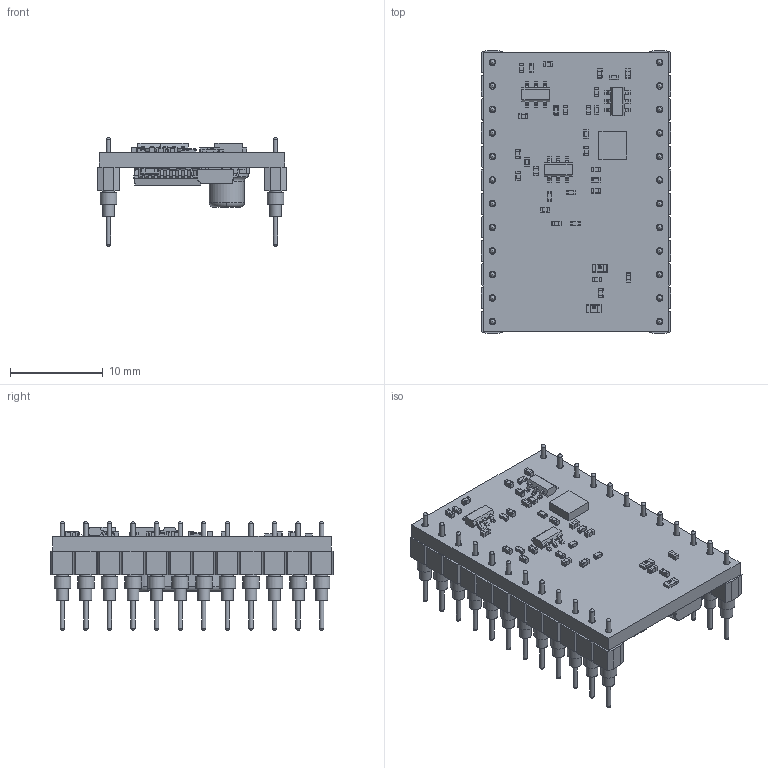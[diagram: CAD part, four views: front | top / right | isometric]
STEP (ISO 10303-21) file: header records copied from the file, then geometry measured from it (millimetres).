
FILE_DESCRIPTION(('Open CASCADE Model'),'2;1');
FILE_NAME('Open CASCADE Shape Model','2024-03-15T08:25:14',('Author'),( 'Open CASCADE'),'Open CASCADE STEP processor 6.8','Open CASCADE 6.8' ,'Unknown');
FILE_SCHEMA(('AUTOMOTIVE_DESIGN { 1 0 10303 214 1 1 1 1 }'));
Length unit declared in the file: millimetre
Products named in the file (78): PCB; Board; R17; User_Library-Chip_Resistor2; R15; R14; R13; R12; R11; R10; R9; R8; R7; R6; R3; J1; BHS-112-G-A; _BHS-112-G-A_socket; _BHS-112-G-A_pins; C32; cap_0402; C31; C30; C29; C28; C27; C26; C25; C24; C23; C22; C21; C20; C19; C18; C17; C16; C15; C14; C13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
Assembly tree (154 placements, depth 4):
  PCB
    Board
    R17
      User_Library-Chip_Resistor2
    R15
      User_Library-Chip_Resistor2
    R14
      User_Library-Chip_Resistor2
    R13
      User_Library-Chip_Resistor2
    R12
      User_Library-Chip_Resistor2
    R11
      User_Library-Chip_Resistor2
    R10
      User_Library-Chip_Resistor2
    R9
      User_Library-Chip_Resistor2
    R8
      User_Library-Chip_Resistor2
    R7
      User_Library-Chip_Resistor2
    R6
      User_Library-Chip_Resistor2
    R3
      User_Library-Chip_Resistor2
    J1
      BHS-112-G-A  x2
        _BHS-112-G-A_socket
        _BHS-112-G-A_pins
    C32
      cap_0402
    C31
      cap_0402
    C30
      cap_0402
    C29
      cap_0402
    C28
      cap_0402
    C27
      cap_0402
    C26
      cap_0402
    C25
      cap_0402
    C24
      cap_0402
    C23
      cap_0402
    C22
      cap_0402
    C21
      cap_0402
    C20
      cap_0402
    C19
      cap_0402
    C18
      cap_0402
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Bounding box: 20.44 x 30.48 x 11.68 mm (x, y, z)
Volume: 1777.3 mm3; surface area: 3992.1 mm2
Topology: 116 solids, 140 shells, 3822 faces, 9091 edges, 5255 vertices
Faces by surface type: plane 1663, cylinder 1428, sphere 497, bspline 228, torus 6
Full cylindrical faces by diameter (mm): 0.457 x48, 0.7 x24, 1.27 x72, 1.778 x24
Entity records: 41719 total; most frequent: CARTESIAN_POINT 11747, ORIENTED_EDGE 4658, DIRECTION 4584, EDGE_CURVE 2329, AXIS2_PLACEMENT_3D 1532, LINE 1520, VECTOR 1520, VERTEX_POINT 1460
